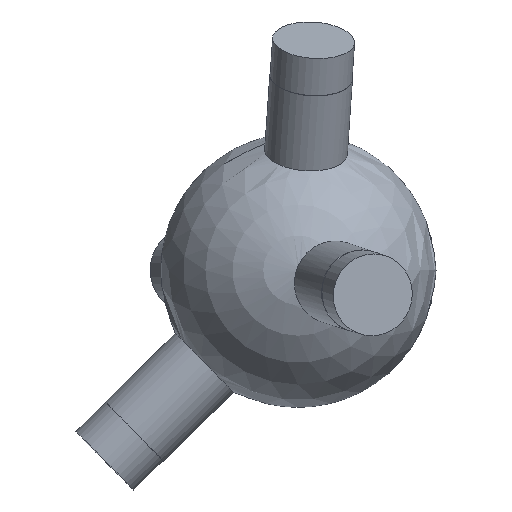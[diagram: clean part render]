
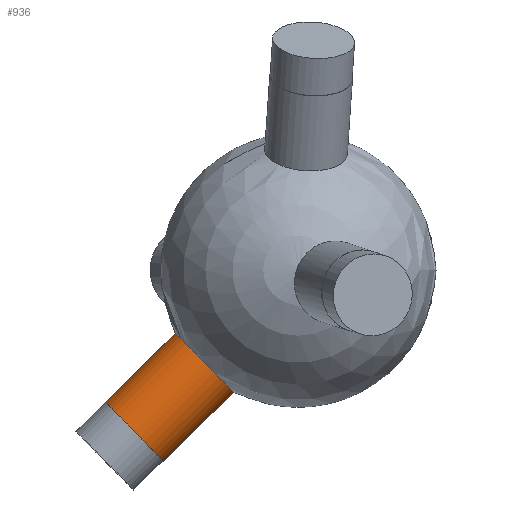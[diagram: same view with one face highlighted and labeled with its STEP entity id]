
A CAD part, top view. The second image highlights one B-rep face of the part: STEP entity #936.
In plain terms, the highlighted cylindrical face has radius 6 mm (diameter 12 mm), a full revolution.
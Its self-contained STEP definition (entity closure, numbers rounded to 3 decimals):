
#33 = SPHERICAL_SURFACE('',#34,20.);
#34 = AXIS2_PLACEMENT_3D('',#35,#36,#37);
#35 = CARTESIAN_POINT('',(0.,0.,0.));
#36 = DIRECTION('',(0.,0.,1.));
#37 = DIRECTION('',(1.,0.,-0.));
#632 = EDGE_CURVE('',#633,#633,#635,.T.);
#633 = VERTEX_POINT('',#634);
#634 = CARTESIAN_POINT('',(-9.382,-17.663,
    0.119));
#635 = SURFACE_CURVE('',#636,(#641,#703),.PCURVE_S1.);
#636 = CIRCLE('',#637,6.);
#637 = AXIS2_PLACEMENT_3D('',#638,#639,#640);
#638 = CARTESIAN_POINT('',(-13.592,-13.388,
    0.119));
#639 = DIRECTION('',(-0.712,-0.702,0.006)
  );
#640 = DIRECTION('',(0.702,-0.712,0.)
  );
#641 = PCURVE('',#33,#642);
#642 = DEFINITIONAL_REPRESENTATION('',(#643),#702);
#643 = B_SPLINE_CURVE_WITH_KNOTS('',8,(#644,#645,#646,#647,#648,#649,
    #650,#651,#652,#653,#654,#655,#656,#657,#658,#659,#660,#661,#662,
    #663,#664,#665,#666,#667,#668,#669,#670,#671,#672,#673,#674,#675,
    #676,#677,#678,#679,#680,#681,#682,#683,#684,#685,#686,#687,#688,
    #689,#690,#691,#692,#693,#694,#695,#696,#697,#698,#699,#700,#701),
  .UNSPECIFIED.,.F.,.F.,(9,7,7,7,7,7,7,7,9),(0.,0.785,
    1.473,2.074,3.126,3.915,
    4.507,5.395,6.283),.UNSPECIFIED.);
#644 = CARTESIAN_POINT('',(4.224,0.006));
#645 = CARTESIAN_POINT('',(4.224,0.035));
#646 = CARTESIAN_POINT('',(4.221,0.065));
#647 = CARTESIAN_POINT('',(4.215,0.094));
#648 = CARTESIAN_POINT('',(4.205,0.122));
#649 = CARTESIAN_POINT('',(4.193,0.149));
#650 = CARTESIAN_POINT('',(4.178,0.175));
#651 = CARTESIAN_POINT('',(4.159,0.199));
#652 = CARTESIAN_POINT('',(4.12,0.239));
#653 = CARTESIAN_POINT('',(4.1,0.255));
#654 = CARTESIAN_POINT('',(4.078,0.27));
#655 = CARTESIAN_POINT('',(4.055,0.283));
#656 = CARTESIAN_POINT('',(4.03,0.294));
#657 = CARTESIAN_POINT('',(4.004,0.301));
#658 = CARTESIAN_POINT('',(3.977,0.307));
#659 = CARTESIAN_POINT('',(3.927,0.312));
#660 = CARTESIAN_POINT('',(3.903,0.312));
#661 = CARTESIAN_POINT('',(3.879,0.31));
#662 = CARTESIAN_POINT('',(3.856,0.307));
#663 = CARTESIAN_POINT('',(3.833,0.301));
#664 = CARTESIAN_POINT('',(3.81,0.293));
#665 = CARTESIAN_POINT('',(3.789,0.283));
#666 = CARTESIAN_POINT('',(3.733,0.252));
#667 = CARTESIAN_POINT('',(3.701,0.227));
#668 = CARTESIAN_POINT('',(3.673,0.198));
#669 = CARTESIAN_POINT('',(3.651,0.164));
#670 = CARTESIAN_POINT('',(3.633,0.128));
#671 = CARTESIAN_POINT('',(3.621,0.089));
#672 = CARTESIAN_POINT('',(3.615,0.05));
#673 = CARTESIAN_POINT('',(3.614,-0.019));
#674 = CARTESIAN_POINT('',(3.617,-0.049));
#675 = CARTESIAN_POINT('',(3.623,-0.078));
#676 = CARTESIAN_POINT('',(3.632,-0.106));
#677 = CARTESIAN_POINT('',(3.645,-0.134));
#678 = CARTESIAN_POINT('',(3.66,-0.16));
#679 = CARTESIAN_POINT('',(3.678,-0.184));
#680 = CARTESIAN_POINT('',(3.714,-0.221));
#681 = CARTESIAN_POINT('',(3.731,-0.236));
#682 = CARTESIAN_POINT('',(3.749,-0.25));
#683 = CARTESIAN_POINT('',(3.769,-0.262));
#684 = CARTESIAN_POINT('',(3.789,-0.272));
#685 = CARTESIAN_POINT('',(3.811,-0.281));
#686 = CARTESIAN_POINT('',(3.833,-0.287));
#687 = CARTESIAN_POINT('',(3.89,-0.299));
#688 = CARTESIAN_POINT('',(3.925,-0.302));
#689 = CARTESIAN_POINT('',(3.96,-0.3));
#690 = CARTESIAN_POINT('',(3.995,-0.294));
#691 = CARTESIAN_POINT('',(4.028,-0.283));
#692 = CARTESIAN_POINT('',(4.06,-0.269));
#693 = CARTESIAN_POINT('',(4.089,-0.25));
#694 = CARTESIAN_POINT('',(4.141,-0.207));
#695 = CARTESIAN_POINT('',(4.164,-0.182));
#696 = CARTESIAN_POINT('',(4.184,-0.155));
#697 = CARTESIAN_POINT('',(4.2,-0.125));
#698 = CARTESIAN_POINT('',(4.212,-0.093));
#699 = CARTESIAN_POINT('',(4.22,-0.061));
#700 = CARTESIAN_POINT('',(4.224,-0.027));
#701 = CARTESIAN_POINT('',(4.224,0.006));
#702 = ( GEOMETRIC_REPRESENTATION_CONTEXT(2) 
PARAMETRIC_REPRESENTATION_CONTEXT() REPRESENTATION_CONTEXT('2D SPACE',''
  ) );
#703 = PCURVE('',#704,#709);
#704 = CYLINDRICAL_SURFACE('',#705,6.);
#705 = AXIS2_PLACEMENT_3D('',#706,#707,#708);
#706 = CARTESIAN_POINT('',(0.,0.,0.));
#707 = DIRECTION('',(-0.712,-0.702,0.006)
  );
#708 = DIRECTION('',(0.702,-0.712,0.)
  );
#709 = DEFINITIONAL_REPRESENTATION('',(#710),#714);
#710 = LINE('',#711,#712);
#711 = CARTESIAN_POINT('',(0.,19.079));
#712 = VECTOR('',#713,1.);
#713 = DIRECTION('',(1.,0.));
#714 = ( GEOMETRIC_REPRESENTATION_CONTEXT(2) 
PARAMETRIC_REPRESENTATION_CONTEXT() REPRESENTATION_CONTEXT('2D SPACE',''
  ) );
#936 = ADVANCED_FACE('',(#937),#704,.T.);
#937 = FACE_BOUND('',#938,.T.);
#938 = EDGE_LOOP('',(#939,#962,#989,#990));
#939 = ORIENTED_EDGE('',*,*,#940,.T.);
#940 = EDGE_CURVE('',#633,#941,#943,.T.);
#941 = VERTEX_POINT('',#942);
#942 = CARTESIAN_POINT('',(-19.513,-27.641,
    0.208));
#943 = SEAM_CURVE('',#944,(#948,#955),.PCURVE_S1.);
#944 = LINE('',#945,#946);
#945 = CARTESIAN_POINT('',(4.21,-4.275,
    0.));
#946 = VECTOR('',#947,1.);
#947 = DIRECTION('',(-0.712,-0.702,0.006)
  );
#948 = PCURVE('',#704,#949);
#949 = DEFINITIONAL_REPRESENTATION('',(#950),#954);
#950 = LINE('',#951,#952);
#951 = CARTESIAN_POINT('',(6.283,-0.));
#952 = VECTOR('',#953,1.);
#953 = DIRECTION('',(0.,1.));
#954 = ( GEOMETRIC_REPRESENTATION_CONTEXT(2) 
PARAMETRIC_REPRESENTATION_CONTEXT() REPRESENTATION_CONTEXT('2D SPACE',''
  ) );
#955 = PCURVE('',#704,#956);
#956 = DEFINITIONAL_REPRESENTATION('',(#957),#961);
#957 = LINE('',#958,#959);
#958 = CARTESIAN_POINT('',(0.,-0.));
#959 = VECTOR('',#960,1.);
#960 = DIRECTION('',(0.,1.));
#961 = ( GEOMETRIC_REPRESENTATION_CONTEXT(2) 
PARAMETRIC_REPRESENTATION_CONTEXT() REPRESENTATION_CONTEXT('2D SPACE',''
  ) );
#962 = ORIENTED_EDGE('',*,*,#963,.F.);
#963 = EDGE_CURVE('',#941,#941,#964,.T.);
#964 = SURFACE_CURVE('',#965,(#970,#977),.PCURVE_S1.);
#965 = CIRCLE('',#966,6.);
#966 = AXIS2_PLACEMENT_3D('',#967,#968,#969);
#967 = CARTESIAN_POINT('',(-23.723,-23.366,
    0.208));
#968 = DIRECTION('',(-0.712,-0.702,0.006)
  );
#969 = DIRECTION('',(0.702,-0.712,0.)
  );
#970 = PCURVE('',#704,#971);
#971 = DEFINITIONAL_REPRESENTATION('',(#972),#976);
#972 = LINE('',#973,#974);
#973 = CARTESIAN_POINT('',(0.,33.299));
#974 = VECTOR('',#975,1.);
#975 = DIRECTION('',(1.,0.));
#976 = ( GEOMETRIC_REPRESENTATION_CONTEXT(2) 
PARAMETRIC_REPRESENTATION_CONTEXT() REPRESENTATION_CONTEXT('2D SPACE',''
  ) );
#977 = PCURVE('',#978,#983);
#978 = PLANE('',#979);
#979 = AXIS2_PLACEMENT_3D('',#980,#981,#982);
#980 = CARTESIAN_POINT('',(-23.723,-23.366,
    0.208));
#981 = DIRECTION('',(-0.712,-0.702,0.006)
  );
#982 = DIRECTION('',(0.702,-0.712,0.)
  );
#983 = DEFINITIONAL_REPRESENTATION('',(#984),#988);
#984 = CIRCLE('',#985,6.);
#985 = AXIS2_PLACEMENT_2D('',#986,#987);
#986 = CARTESIAN_POINT('',(0.,0.));
#987 = DIRECTION('',(1.,0.));
#988 = ( GEOMETRIC_REPRESENTATION_CONTEXT(2) 
PARAMETRIC_REPRESENTATION_CONTEXT() REPRESENTATION_CONTEXT('2D SPACE',''
  ) );
#989 = ORIENTED_EDGE('',*,*,#940,.F.);
#990 = ORIENTED_EDGE('',*,*,#632,.T.);
